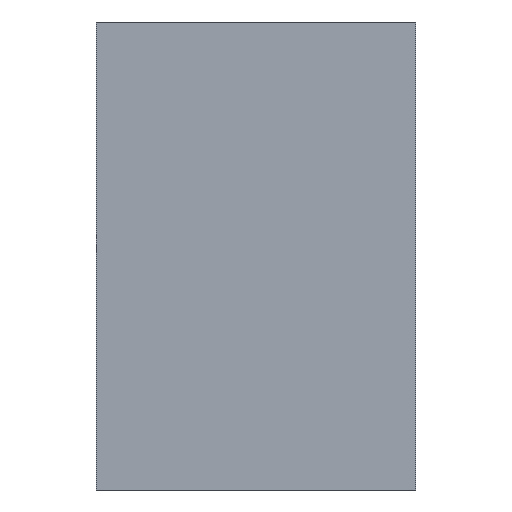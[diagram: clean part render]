
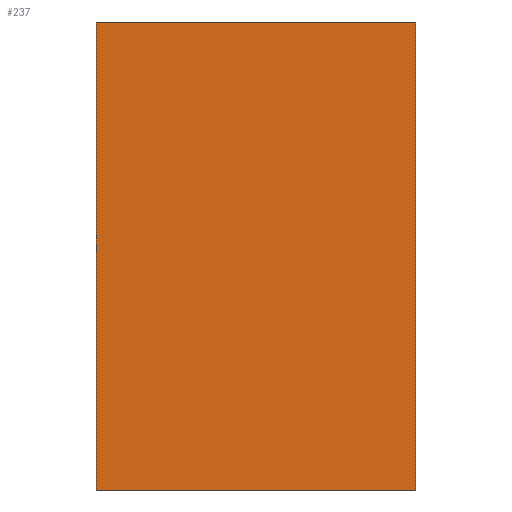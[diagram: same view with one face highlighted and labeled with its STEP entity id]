
A CAD part, front view. The second image highlights one B-rep face of the part: STEP entity #237.
In plain terms, the highlighted planar face has unit normal (0, -1, 0).
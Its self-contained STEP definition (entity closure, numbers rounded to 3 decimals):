
#21 = EDGE_CURVE('',#22,#24,#26,.T.);
#22 = VERTEX_POINT('',#23);
#23 = CARTESIAN_POINT('',(100.,-180.,-230.));
#24 = VERTEX_POINT('',#25);
#25 = CARTESIAN_POINT('',(100.,-180.,-186.));
#26 = SURFACE_CURVE('',#27,(#31,#43),.PCURVE_S1.);
#27 = LINE('',#28,#29);
#28 = CARTESIAN_POINT('',(100.,-180.,-230.));
#29 = VECTOR('',#30,1.);
#30 = DIRECTION('',(0.,0.,1.));
#31 = PCURVE('',#32,#37);
#32 = PLANE('',#33);
#33 = AXIS2_PLACEMENT_3D('',#34,#35,#36);
#34 = CARTESIAN_POINT('',(100.,-180.,-230.));
#35 = DIRECTION('',(1.,0.,0.));
#36 = DIRECTION('',(0.,0.,1.));
#37 = DEFINITIONAL_REPRESENTATION('',(#38),#42);
#38 = LINE('',#39,#40);
#39 = CARTESIAN_POINT('',(0.,0.));
#40 = VECTOR('',#41,1.);
#41 = DIRECTION('',(1.,0.));
#42 = ( GEOMETRIC_REPRESENTATION_CONTEXT(2) 
PARAMETRIC_REPRESENTATION_CONTEXT() REPRESENTATION_CONTEXT('2D SPACE',''
  ) );
#43 = PCURVE('',#44,#49);
#44 = PLANE('',#45);
#45 = AXIS2_PLACEMENT_3D('',#46,#47,#48);
#46 = CARTESIAN_POINT('',(100.,-180.,-230.));
#47 = DIRECTION('',(0.,1.,0.));
#48 = DIRECTION('',(0.,0.,1.));
#49 = DEFINITIONAL_REPRESENTATION('',(#50),#54);
#50 = LINE('',#51,#52);
#51 = CARTESIAN_POINT('',(0.,0.));
#52 = VECTOR('',#53,1.);
#53 = DIRECTION('',(1.,0.));
#54 = ( GEOMETRIC_REPRESENTATION_CONTEXT(2) 
PARAMETRIC_REPRESENTATION_CONTEXT() REPRESENTATION_CONTEXT('2D SPACE',''
  ) );
#72 = PLANE('',#73);
#73 = AXIS2_PLACEMENT_3D('',#74,#75,#76);
#74 = CARTESIAN_POINT('',(100.,-180.,-230.));
#75 = DIRECTION('',(0.,0.,1.));
#76 = DIRECTION('',(1.,0.,0.));
#126 = PLANE('',#127);
#127 = AXIS2_PLACEMENT_3D('',#128,#129,#130);
#128 = CARTESIAN_POINT('',(100.,-180.,-186.));
#129 = DIRECTION('',(0.,0.,1.));
#130 = DIRECTION('',(1.,0.,0.));
#141 = EDGE_CURVE('',#142,#144,#146,.T.);
#142 = VERTEX_POINT('',#143);
#143 = CARTESIAN_POINT('',(130.,-180.,-230.));
#144 = VERTEX_POINT('',#145);
#145 = CARTESIAN_POINT('',(130.,-180.,-186.));
#146 = SURFACE_CURVE('',#147,(#151,#163),.PCURVE_S1.);
#147 = LINE('',#148,#149);
#148 = CARTESIAN_POINT('',(130.,-180.,-230.));
#149 = VECTOR('',#150,1.);
#150 = DIRECTION('',(0.,0.,1.));
#151 = PCURVE('',#152,#157);
#152 = PLANE('',#153);
#153 = AXIS2_PLACEMENT_3D('',#154,#155,#156);
#154 = CARTESIAN_POINT('',(130.,-180.,-230.));
#155 = DIRECTION('',(1.,0.,0.));
#156 = DIRECTION('',(0.,0.,1.));
#157 = DEFINITIONAL_REPRESENTATION('',(#158),#162);
#158 = LINE('',#159,#160);
#159 = CARTESIAN_POINT('',(0.,0.));
#160 = VECTOR('',#161,1.);
#161 = DIRECTION('',(1.,0.));
#162 = ( GEOMETRIC_REPRESENTATION_CONTEXT(2) 
PARAMETRIC_REPRESENTATION_CONTEXT() REPRESENTATION_CONTEXT('2D SPACE',''
  ) );
#163 = PCURVE('',#44,#164);
#164 = DEFINITIONAL_REPRESENTATION('',(#165),#169);
#165 = LINE('',#166,#167);
#166 = CARTESIAN_POINT('',(0.,30.));
#167 = VECTOR('',#168,1.);
#168 = DIRECTION('',(1.,0.));
#169 = ( GEOMETRIC_REPRESENTATION_CONTEXT(2) 
PARAMETRIC_REPRESENTATION_CONTEXT() REPRESENTATION_CONTEXT('2D SPACE',''
  ) );
#237 = ADVANCED_FACE('',(#238),#44,.F.);
#238 = FACE_BOUND('',#239,.F.);
#239 = EDGE_LOOP('',(#240,#261,#262,#283));
#240 = ORIENTED_EDGE('',*,*,#241,.F.);
#241 = EDGE_CURVE('',#22,#142,#242,.T.);
#242 = SURFACE_CURVE('',#243,(#247,#254),.PCURVE_S1.);
#243 = LINE('',#244,#245);
#244 = CARTESIAN_POINT('',(100.,-180.,-230.));
#245 = VECTOR('',#246,1.);
#246 = DIRECTION('',(1.,0.,0.));
#247 = PCURVE('',#44,#248);
#248 = DEFINITIONAL_REPRESENTATION('',(#249),#253);
#249 = LINE('',#250,#251);
#250 = CARTESIAN_POINT('',(0.,0.));
#251 = VECTOR('',#252,1.);
#252 = DIRECTION('',(0.,1.));
#253 = ( GEOMETRIC_REPRESENTATION_CONTEXT(2) 
PARAMETRIC_REPRESENTATION_CONTEXT() REPRESENTATION_CONTEXT('2D SPACE',''
  ) );
#254 = PCURVE('',#72,#255);
#255 = DEFINITIONAL_REPRESENTATION('',(#256),#260);
#256 = LINE('',#257,#258);
#257 = CARTESIAN_POINT('',(0.,0.));
#258 = VECTOR('',#259,1.);
#259 = DIRECTION('',(1.,0.));
#260 = ( GEOMETRIC_REPRESENTATION_CONTEXT(2) 
PARAMETRIC_REPRESENTATION_CONTEXT() REPRESENTATION_CONTEXT('2D SPACE',''
  ) );
#261 = ORIENTED_EDGE('',*,*,#21,.T.);
#262 = ORIENTED_EDGE('',*,*,#263,.T.);
#263 = EDGE_CURVE('',#24,#144,#264,.T.);
#264 = SURFACE_CURVE('',#265,(#269,#276),.PCURVE_S1.);
#265 = LINE('',#266,#267);
#266 = CARTESIAN_POINT('',(100.,-180.,-186.));
#267 = VECTOR('',#268,1.);
#268 = DIRECTION('',(1.,0.,0.));
#269 = PCURVE('',#44,#270);
#270 = DEFINITIONAL_REPRESENTATION('',(#271),#275);
#271 = LINE('',#272,#273);
#272 = CARTESIAN_POINT('',(44.,0.));
#273 = VECTOR('',#274,1.);
#274 = DIRECTION('',(0.,1.));
#275 = ( GEOMETRIC_REPRESENTATION_CONTEXT(2) 
PARAMETRIC_REPRESENTATION_CONTEXT() REPRESENTATION_CONTEXT('2D SPACE',''
  ) );
#276 = PCURVE('',#126,#277);
#277 = DEFINITIONAL_REPRESENTATION('',(#278),#282);
#278 = LINE('',#279,#280);
#279 = CARTESIAN_POINT('',(0.,0.));
#280 = VECTOR('',#281,1.);
#281 = DIRECTION('',(1.,0.));
#282 = ( GEOMETRIC_REPRESENTATION_CONTEXT(2) 
PARAMETRIC_REPRESENTATION_CONTEXT() REPRESENTATION_CONTEXT('2D SPACE',''
  ) );
#283 = ORIENTED_EDGE('',*,*,#141,.F.);
